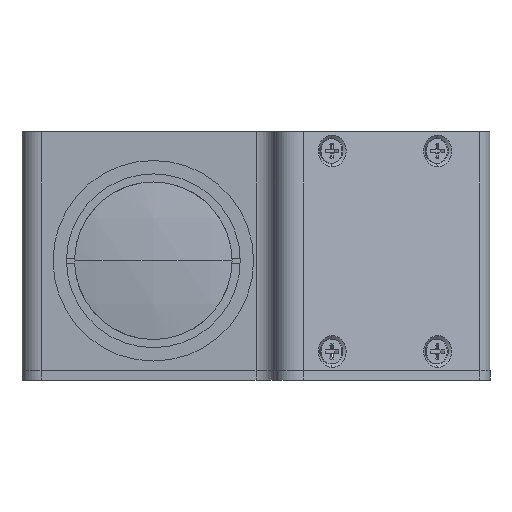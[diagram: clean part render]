
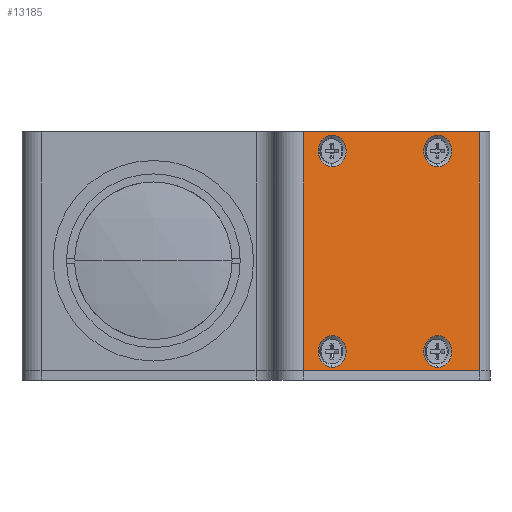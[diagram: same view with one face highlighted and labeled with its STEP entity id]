
A CAD part, left-side view. The second image highlights one B-rep face of the part: STEP entity #13185.
In plain terms, the highlighted planar face has unit normal (-0.883, -0.469, 0).
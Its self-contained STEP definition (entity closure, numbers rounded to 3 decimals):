
#94 = EDGE_CURVE ( 'NONE', #1747, #14007, #1211, .T. ) ;
#100 = DIRECTION ( 'NONE',  ( -0.883, -0.469, 0. ) ) ;
#339 = CARTESIAN_POINT ( 'NONE',  ( 67.497, -74.473, -23. ) ) ;
#347 = LINE ( 'NONE', #4668, #11235 ) ;
#349 = AXIS2_PLACEMENT_3D ( 'NONE', #7658, #682, #8842 ) ;
#534 = FACE_BOUND ( 'NONE', #6359, .T. ) ;
#638 = DIRECTION ( 'NONE',  ( -0.883, -0.469, 0. ) ) ;
#682 = DIRECTION ( 'NONE',  ( -0.883, -0.469, 0. ) ) ;
#830 = CARTESIAN_POINT ( 'NONE',  ( 47.824, -37.475, 23. ) ) ;
#860 = AXIS2_PLACEMENT_3D ( 'NONE', #1338, #9520, #2507 ) ;
#897 = FACE_BOUND ( 'NONE', #940, .T. ) ;
#940 = EDGE_LOOP ( 'NONE', ( #12443, #10533 ) ) ;
#1026 = VERTEX_POINT ( 'NONE', #12268 ) ;
#1062 = CIRCLE ( 'NONE', #3190, 3.3 ) ;
#1211 = CIRCLE ( 'NONE', #3755, 3.3 ) ;
#1338 = CARTESIAN_POINT ( 'NONE',  ( 59.561, -59.548, 23. ) ) ;
#1385 = VERTEX_POINT ( 'NONE', #13002 ) ;
#1497 = DIRECTION ( 'NONE',  ( -0.469, 0.883, 0. ) ) ;
#1607 = VECTOR ( 'NONE', #2420, 1000. ) ;
#1747 = VERTEX_POINT ( 'NONE', #6914 ) ;
#1810 = EDGE_CURVE ( 'NONE', #1026, #13289, #6234, .T. ) ;
#1849 = DIRECTION ( 'NONE',  ( -0.883, -0.469, 0. ) ) ;
#2420 = DIRECTION ( 'NONE',  ( 0.469, -0.883, 0. ) ) ;
#2507 = DIRECTION ( 'NONE',  ( 0., 0., 1. ) ) ;
#2722 = CARTESIAN_POINT ( 'NONE',  ( 47.824, -37.475, 26.3 ) ) ;
#2763 = CIRCLE ( 'NONE', #349, 3.3 ) ;
#3190 = AXIS2_PLACEMENT_3D ( 'NONE', #11961, #5082, #13105 ) ;
#3250 = VECTOR ( 'NONE', #1497, 1000. ) ;
#3386 = VERTEX_POINT ( 'NONE', #12191 ) ;
#3620 = FACE_BOUND ( 'NONE', #10433, .T. ) ;
#3755 = AXIS2_PLACEMENT_3D ( 'NONE', #830, #13735, #11461 ) ;
#4217 = CARTESIAN_POINT ( 'NONE',  ( 47.824, -37.475, -15.7 ) ) ;
#4552 = VECTOR ( 'NONE', #12629, 1000. ) ;
#4668 = CARTESIAN_POINT ( 'NONE',  ( 64.256, -68.378, 2. ) ) ;
#5036 = VERTEX_POINT ( 'NONE', #5486 ) ;
#5040 = CARTESIAN_POINT ( 'NONE',  ( 64.256, -68.378, -23. ) ) ;
#5082 = DIRECTION ( 'NONE',  ( -0.883, -0.469, 0. ) ) ;
#5197 = DIRECTION ( 'NONE',  ( -0.883, -0.469, 0. ) ) ;
#5224 = CARTESIAN_POINT ( 'NONE',  ( 59.561, -59.548, -19. ) ) ;
#5486 = CARTESIAN_POINT ( 'NONE',  ( 59.561, -59.548, 19.7 ) ) ;
#5489 = ORIENTED_EDGE ( 'NONE', *, *, #13630, .F. ) ;
#5820 = ORIENTED_EDGE ( 'NONE', *, *, #94, .F. ) ;
#6151 = CIRCLE ( 'NONE', #14897, 3.3 ) ;
#6234 = CIRCLE ( 'NONE', #14549, 3.3 ) ;
#6302 = CARTESIAN_POINT ( 'NONE',  ( 54.469, -49.971, 2. ) ) ;
#6359 = EDGE_LOOP ( 'NONE', ( #13890, #5820 ) ) ;
#6381 = DIRECTION ( 'NONE',  ( 0., 0., 1. ) ) ;
#6774 = CIRCLE ( 'NONE', #860, 3.3 ) ;
#6914 = CARTESIAN_POINT ( 'NONE',  ( 47.824, -37.475, 19.7 ) ) ;
#6929 = CARTESIAN_POINT ( 'NONE',  ( 44.566, -31.348, 2. ) ) ;
#7075 = CARTESIAN_POINT ( 'NONE',  ( 47.824, -37.475, -19. ) ) ;
#7297 = ORIENTED_EDGE ( 'NONE', *, *, #12859, .T. ) ;
#7619 = CARTESIAN_POINT ( 'NONE',  ( 47.824, -37.475, 23. ) ) ;
#7658 = CARTESIAN_POINT ( 'NONE',  ( 59.561, -59.548, -19. ) ) ;
#8086 = EDGE_CURVE ( 'NONE', #5036, #14176, #6774, .T. ) ;
#8268 = DIRECTION ( 'NONE',  ( 0., 0., 1. ) ) ;
#8286 = EDGE_CURVE ( 'NONE', #14524, #3386, #2763, .T. ) ;
#8679 = PLANE ( 'NONE',  #12657 ) ;
#8807 = DIRECTION ( 'NONE',  ( 0., 0., 1. ) ) ;
#8842 = DIRECTION ( 'NONE',  ( 0., 0., 1. ) ) ;
#8853 = CARTESIAN_POINT ( 'NONE',  ( 59.561, -59.548, 23. ) ) ;
#8912 = CIRCLE ( 'NONE', #14840, 3.3 ) ;
#9145 = ORIENTED_EDGE ( 'NONE', *, *, #13568, .T. ) ;
#9488 = FACE_OUTER_BOUND ( 'NONE', #10399, .T. ) ;
#9520 = DIRECTION ( 'NONE',  ( -0.883, -0.469, 0. ) ) ;
#9724 = EDGE_LOOP ( 'NONE', ( #11420, #9845 ) ) ;
#9845 = ORIENTED_EDGE ( 'NONE', *, *, #1810, .F. ) ;
#10012 = DIRECTION ( 'NONE',  ( 0., 0., 1. ) ) ;
#10399 = EDGE_LOOP ( 'NONE', ( #11084, #9145, #5489, #7297 ) ) ;
#10433 = EDGE_LOOP ( 'NONE', ( #12966, #11395 ) ) ;
#10509 = AXIS2_PLACEMENT_3D ( 'NONE', #7619, #638, #8807 ) ;
#10533 = ORIENTED_EDGE ( 'NONE', *, *, #8286, .F. ) ;
#10728 = LINE ( 'NONE', #6929, #4552 ) ;
#10825 = CARTESIAN_POINT ( 'NONE',  ( 64.256, -68.378, 27. ) ) ;
#11084 = ORIENTED_EDGE ( 'NONE', *, *, #13750, .F. ) ;
#11136 = CARTESIAN_POINT ( 'NONE',  ( 59.561, -59.548, 26.3 ) ) ;
#11235 = VECTOR ( 'NONE', #11591, 1000. ) ;
#11384 = VERTEX_POINT ( 'NONE', #10825 ) ;
#11395 = ORIENTED_EDGE ( 'NONE', *, *, #8086, .F. ) ;
#11420 = ORIENTED_EDGE ( 'NONE', *, *, #13992, .F. ) ;
#11461 = DIRECTION ( 'NONE',  ( 0., 0., 1. ) ) ;
#11591 = DIRECTION ( 'NONE',  ( 0., 0., 1. ) ) ;
#11632 = CARTESIAN_POINT ( 'NONE',  ( 67.497, -74.473, 27. ) ) ;
#11892 = VERTEX_POINT ( 'NONE', #5040 ) ;
#11961 = CARTESIAN_POINT ( 'NONE',  ( 47.824, -37.475, -19. ) ) ;
#12191 = CARTESIAN_POINT ( 'NONE',  ( 59.561, -59.548, -15.7 ) ) ;
#12268 = CARTESIAN_POINT ( 'NONE',  ( 47.824, -37.475, -22.3 ) ) ;
#12443 = ORIENTED_EDGE ( 'NONE', *, *, #14080, .F. ) ;
#12463 = FACE_BOUND ( 'NONE', #9724, .T. ) ;
#12520 = CARTESIAN_POINT ( 'NONE',  ( 44.566, -31.348, 27. ) ) ;
#12629 = DIRECTION ( 'NONE',  ( 0., 0., -1. ) ) ;
#12657 = AXIS2_PLACEMENT_3D ( 'NONE', #6302, #5197, #13219 ) ;
#12809 = LINE ( 'NONE', #339, #3250 ) ;
#12859 = EDGE_CURVE ( 'NONE', #13469, #1385, #10728, .T. ) ;
#12966 = ORIENTED_EDGE ( 'NONE', *, *, #14144, .F. ) ;
#13002 = CARTESIAN_POINT ( 'NONE',  ( 44.566, -31.348, -23. ) ) ;
#13041 = CARTESIAN_POINT ( 'NONE',  ( 59.561, -59.548, -22.3 ) ) ;
#13105 = DIRECTION ( 'NONE',  ( 0., 0., 1. ) ) ;
#13185 = ADVANCED_FACE ( 'NONE', ( #3620, #897, #12463, #534, #9488 ), #8679, .T. ) ;
#13219 = DIRECTION ( 'NONE',  ( 0., 0., 1. ) ) ;
#13243 = DIRECTION ( 'NONE',  ( -0.883, -0.469, 0. ) ) ;
#13289 = VERTEX_POINT ( 'NONE', #4217 ) ;
#13320 = CIRCLE ( 'NONE', #10509, 3.3 ) ;
#13469 = VERTEX_POINT ( 'NONE', #12520 ) ;
#13568 = EDGE_CURVE ( 'NONE', #11892, #11384, #347, .T. ) ;
#13630 = EDGE_CURVE ( 'NONE', #13469, #11384, #14223, .T. ) ;
#13735 = DIRECTION ( 'NONE',  ( -0.883, -0.469, 0. ) ) ;
#13750 = EDGE_CURVE ( 'NONE', #11892, #1385, #12809, .T. ) ;
#13890 = ORIENTED_EDGE ( 'NONE', *, *, #13923, .F. ) ;
#13923 = EDGE_CURVE ( 'NONE', #14007, #1747, #13320, .T. ) ;
#13992 = EDGE_CURVE ( 'NONE', #13289, #1026, #1062, .T. ) ;
#14007 = VERTEX_POINT ( 'NONE', #2722 ) ;
#14080 = EDGE_CURVE ( 'NONE', #3386, #14524, #8912, .T. ) ;
#14144 = EDGE_CURVE ( 'NONE', #14176, #5036, #6151, .T. ) ;
#14176 = VERTEX_POINT ( 'NONE', #11136 ) ;
#14223 = LINE ( 'NONE', #11632, #1607 ) ;
#14524 = VERTEX_POINT ( 'NONE', #13041 ) ;
#14549 = AXIS2_PLACEMENT_3D ( 'NONE', #7075, #100, #8268 ) ;
#14840 = AXIS2_PLACEMENT_3D ( 'NONE', #5224, #13243, #6381 ) ;
#14897 = AXIS2_PLACEMENT_3D ( 'NONE', #8853, #1849, #10012 ) ;
